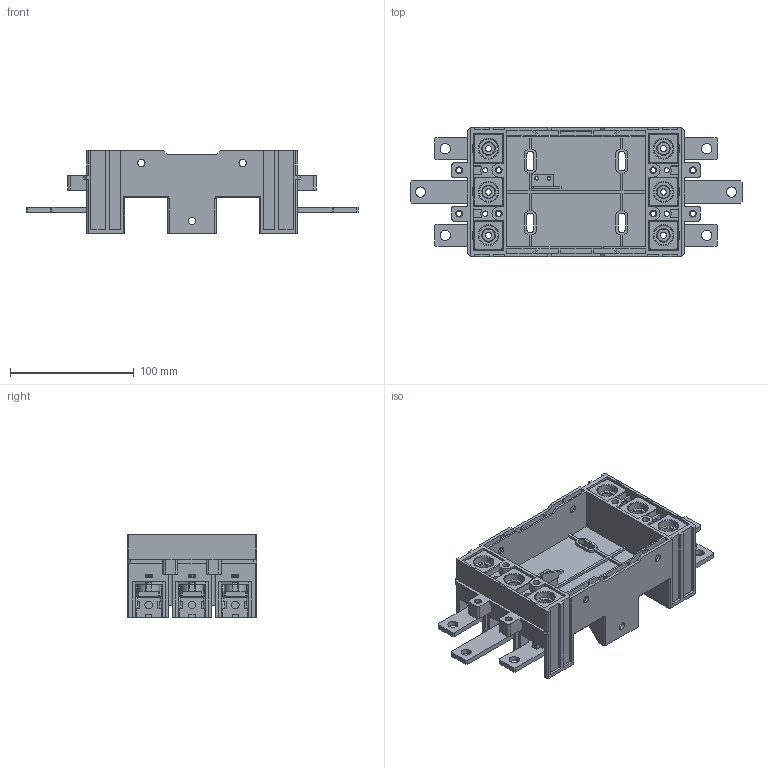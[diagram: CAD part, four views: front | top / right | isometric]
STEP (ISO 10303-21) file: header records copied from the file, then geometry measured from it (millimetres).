
FILE_DESCRIPTION((''),'2;1');
FILE_NAME('MZ2-250-TEM7_1_ASM','2025-04-07T10:30:57',('gaoleixiao'),(''),'CREO PARAMETRIC BY PTC INC, 2020354','CREO PARAMETRIC BY PTC INC, 2020354','');
FILE_SCHEMA(('CONFIG_CONTROL_DESIGN'));
Length unit declared in the file: millimetre
Products named in the file (29): WL5_024_203_1; 11-8141M0406001_3; ASSEM1_3; 5564M1526001_3_ASM; WL8_300_065_1; 5564M1526001-54838_ASM; 22-8580M0406027; WL5_024_203_1_4; 11-8141M0406001_2; ASSEM1_2; 5564M1526001_2_ASM; 11-8141M0406001_6; ASSEM1_6; 5564M1526001_6_ASM; WL5_024_203_1_3; 11-8141M0406001; ASSEM1; 5564M1526001-20748_ASM; 11-8141M0406001_5; ASSEM1_5; 5564M1526001_5_ASM; WL5_024_203_1_2; 22-8580M0406026; 11-8141M0406001_4; ASSEM1_4; 5564M1526001_4_ASM; _X2_96F64EF6_X0_1; WL5_024_203_1_5; MZ2-250-TEM7_1_ASM
Assembly tree (62 placements, depth 3):
  MZ2-250-TEM7_1_ASM
    WL5_024_203_1
    5564M1526001_3_ASM
      11-8141M0406001_3  x4
      ASSEM1_3
    WL8_300_065_1  x6
    5564M1526001-54838_ASM  x8
    22-8580M0406027  x2
    WL5_024_203_1_4
    5564M1526001_2_ASM
      11-8141M0406001_2  x4
      ASSEM1_2
    5564M1526001_6_ASM
      11-8141M0406001_6  x4
      ASSEM1_6
    WL5_024_203_1_3
    5564M1526001-20748_ASM
      11-8141M0406001  x4
      ASSEM1
    5564M1526001_5_ASM
      11-8141M0406001_5  x4
      ASSEM1_5
    WL5_024_203_1_2
    22-8580M0406026  x4
    5564M1526001_4_ASM
      11-8141M0406001_4  x4
      ASSEM1_4
    _X2_96F64EF6_X0_1
    WL5_024_203_1_5
Bounding box: 268.5 x 105 x 67 mm (x, y, z)
Volume: 311605.3 mm3; surface area: 260769.7 mm2
Topology: 48 solids, 48 shells, 2440 faces, 6992 edges, 4605 vertices
Faces by surface type: plane 1401, cylinder 627, torus 160, bspline 144, cone 84, sphere 24
Entity records: 50592 total; most frequent: CARTESIAN_POINT 10770, ORIENTED_EDGE 8280, DIRECTION 8174, EDGE_CURVE 4140, VECTOR 2846, LINE 2846, VERTEX_POINT 2719, AXIS2_PLACEMENT_3D 2664
